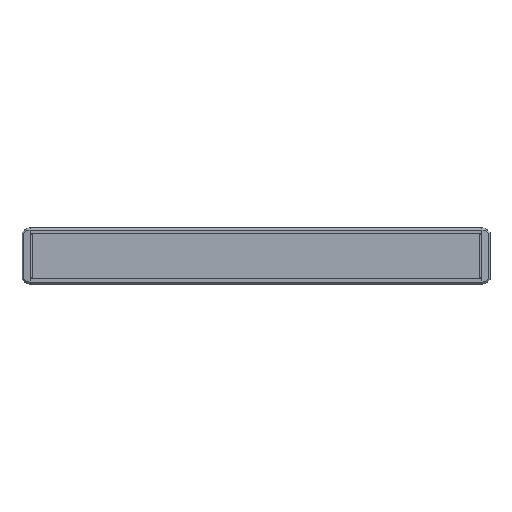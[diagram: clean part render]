
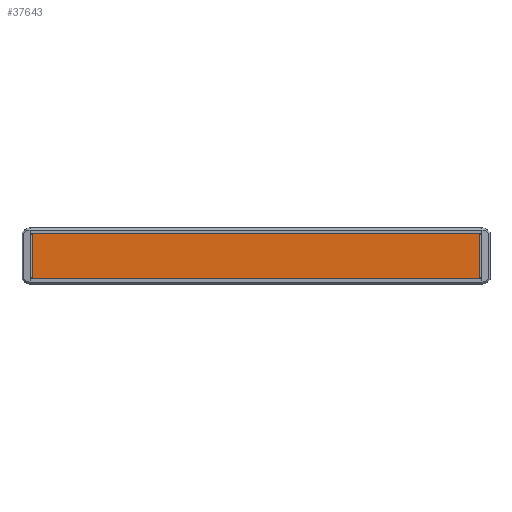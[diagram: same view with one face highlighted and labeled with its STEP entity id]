
A CAD part, front view. The second image highlights one B-rep face of the part: STEP entity #37643.
In plain terms, the highlighted planar face has unit normal (0, -1, 0) as drawn and (0, 1, 0) by its records, which use the part's own axes.
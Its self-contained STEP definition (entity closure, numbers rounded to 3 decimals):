
#37499=DIRECTION('',(-1.,0.,0.));
#37500=VECTOR('',#37499,34.6);
#37501=CARTESIAN_POINT('',(17.3,2.,-160.6));
#37502=LINE('',#37501,#37500);
#37520=DIRECTION('',(0.,0.,1.));
#37521=VECTOR('',#37520,321.2);
#37522=CARTESIAN_POINT('',(-17.3,2.,-160.6));
#37523=LINE('',#37522,#37521);
#37527=DIRECTION('',(0.,0.,1.));
#37528=VECTOR('',#37527,321.2);
#37529=CARTESIAN_POINT('',(17.3,2.,-160.6));
#37530=LINE('',#37529,#37528);
#37555=DIRECTION('',(-1.,0.,0.));
#37556=VECTOR('',#37555,34.6);
#37557=CARTESIAN_POINT('',(17.3,2.,160.6));
#37558=LINE('',#37557,#37556);
#37573=CARTESIAN_POINT('',(17.3,2.,-160.6));
#37574=VERTEX_POINT('',#37573);
#37575=CARTESIAN_POINT('',(-17.3,2.,-160.6));
#37576=VERTEX_POINT('',#37575);
#37581=CARTESIAN_POINT('',(17.3,2.,160.6));
#37582=VERTEX_POINT('',#37581);
#37583=CARTESIAN_POINT('',(-17.3,2.,160.6));
#37584=VERTEX_POINT('',#37583);
#37630=CARTESIAN_POINT('',(17.3,2.,-160.6));
#37631=DIRECTION('',(0.,1.,0.));
#37632=DIRECTION('',(-1.,0.,0.));
#37633=AXIS2_PLACEMENT_3D('',#37630,#37631,#37632);
#37634=PLANE('',#37633);
#37635=ORIENTED_EDGE('',*,*,#37594,.F.);
#37637=ORIENTED_EDGE('',*,*,#37636,.T.);
#37639=ORIENTED_EDGE('',*,*,#37638,.T.);
#37640=ORIENTED_EDGE('',*,*,#37622,.F.);
#37641=EDGE_LOOP('',(#37635,#37637,#37639,#37640));
#37642=FACE_OUTER_BOUND('',#37641,.F.);
#37594=EDGE_CURVE('',#37574,#37576,#37502,.T.);
#37622=EDGE_CURVE('',#37576,#37584,#37523,.T.);
#37636=EDGE_CURVE('',#37574,#37582,#37530,.T.);
#37638=EDGE_CURVE('',#37582,#37584,#37558,.T.);
#37643=ADVANCED_FACE('',(#37642),#37634,.T.);
